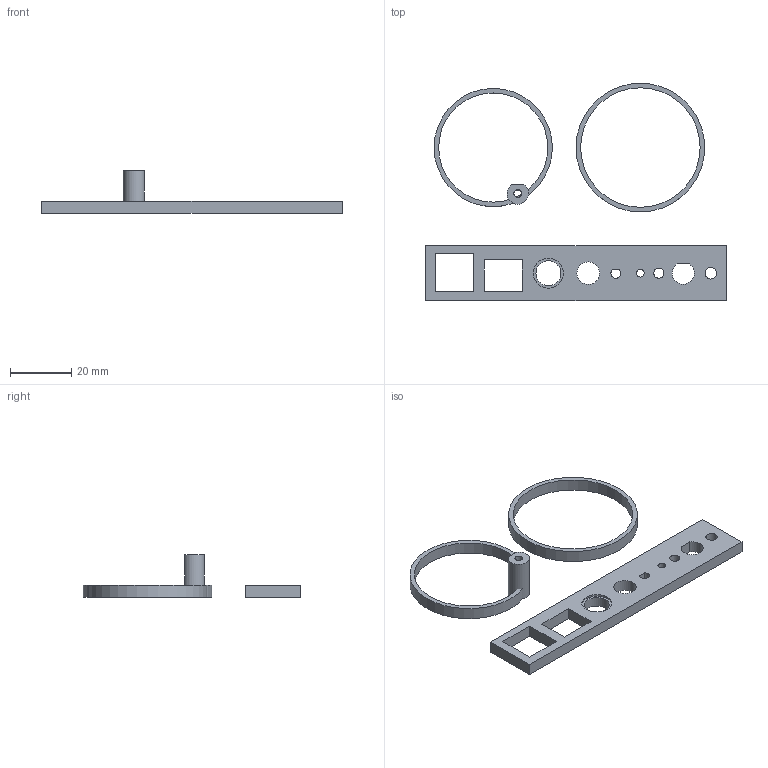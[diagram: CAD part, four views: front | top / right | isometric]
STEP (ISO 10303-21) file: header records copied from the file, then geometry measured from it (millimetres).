
FILE_DESCRIPTION(('Open CASCADE Model'),'2;1');
FILE_NAME('Open CASCADE Shape Model','2026-11-03T00:04:37',('Author'),( 'Open CASCADE'),'Open CASCADE STEP processor 8.0','build123d', 'Unknown');
FILE_SCHEMA(('AUTOMOTIVE_DESIGN { 1 0 10303 214 1 1 1 1 }'));
Length unit declared in the file: millimetre
Products named in the file (5): COMPOUND
Assembly tree (4 placements, depth 2):
  COMPOUND
    COMPOUND
    COMPOUND
    COMPOUND
    COMPOUND
Bounding box: 98 x 71 x 14 mm (x, y, z)
Volume: 7129.7 mm3; surface area: 7564.9 mm2
Topology: 4 solids, 4 shells, 42 faces, 99 edges, 66 vertices
Faces by surface type: plane 27, cylinder 15
Full cylindrical faces by diameter (mm): 2.5 x2, 3.3 x1, 3.8 x1, 7.4 x1, 8.15 x1, 9.8 x1, 35.6 x1, 38.6 x1, 39 x1, 42 x1
Entity records: 2561 total; most frequent: CARTESIAN_POINT 493, DIRECTION 350, ORIENTED_EDGE 198, PCURVE 198, DEFINITIONAL_REPRESENTATION 198, LINE 162, VECTOR 162, EDGE_CURVE 99
